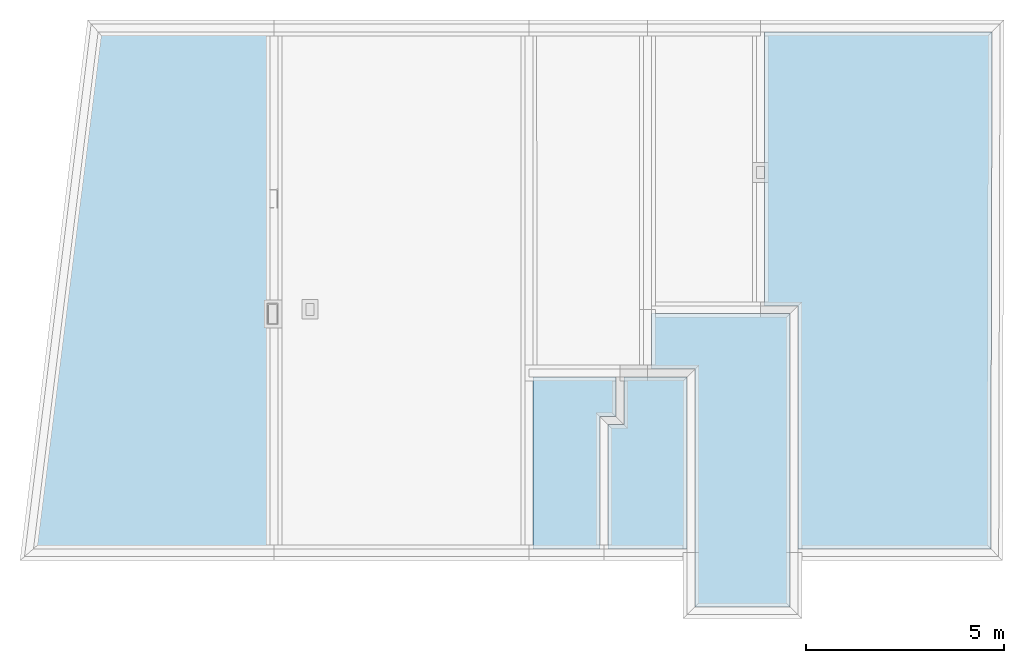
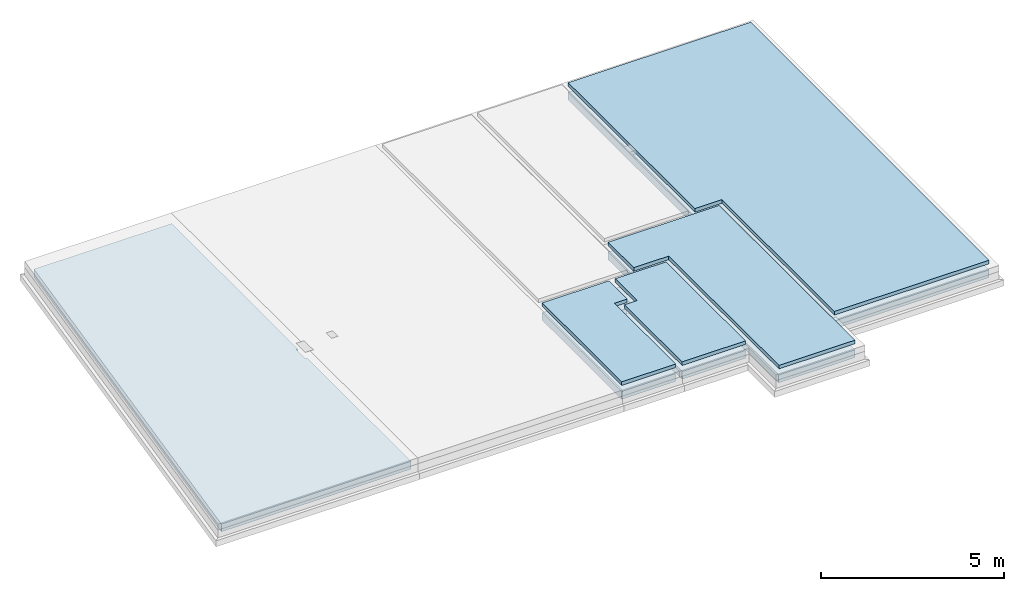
# One storey, part 6 of 6: 9 slabs.
"""IFC2X3 building model written with IfcOpenShell, lengths in metres."""

import ifcopenshell
import ifcopenshell.guid

model = None  # the IFC model being written
_history = None  # IfcOwnerHistory: only IFC2X3 demands one
_inside = {}  # id of a spatial element -> (the spatial element, [elements in it])
_under = {}  # id of a project, library or spatial element -> (it, [spatial elements below it])
_declared = {}  # id of a project -> (the project, [libraries it declares])
_typed = {}  # id of a type object -> (the type object, [elements of that type])
_made_of = {}  # id of a material, layer set ... -> (it, [elements and type objects made of it])


def new_model(schema):
    """Start an empty IFC model of exactly this schema.

    Asked for "IFC4X3", IfcOpenShell would pick the latest addendum, in which some entities
    have other attributes; the version numbers below select the first issue.
    IFC2X3 requires an IfcOwnerHistory on every rooted entity: one is made here for all.
    """
    global model, _history
    if schema == "IFC4X3":
        model = ifcopenshell.file(schema_version=(4, 3, 0, 0))
    else:
        model = ifcopenshell.file(schema=schema)
    _inside.clear()
    _under.clear()
    _declared.clear()
    _typed.clear()
    _made_of.clear()
    _history = None
    if model.schema == "IFC2X3":
        org = make("IfcOrganization", Name="unknown")
        user = make(
            "IfcPersonAndOrganization",
            ThePerson=make("IfcPerson", FamilyName="unknown"),
            TheOrganization=org,
        )
        app = make(
            "IfcApplication",
            ApplicationDeveloper=org,
            Version="unknown",
            ApplicationFullName="unknown",
            ApplicationIdentifier="unknown",
        )
        _history = make(
            "IfcOwnerHistory",
            OwningUser=user,
            OwningApplication=app,
            ChangeAction="ADDED",
            CreationDate=0,
        )
    return model


def make(cls, **values):
    """One entity of the class cls with the attributes given. An attribute that is None is left unset."""
    return model.create_entity(
        cls, **{name: value for name, value in values.items() if value is not None}
    )


def rooted(cls, **values):
    """An entity with a GlobalId (a new one), such as an element, a storey or a relation."""
    return make(cls, GlobalId=ifcopenshell.guid.new(), OwnerHistory=_history, **values)


def si_unit(unit_type, name, prefix=None):
    """IfcSIUnit, for example si_unit("LENGTHUNIT", "METRE", prefix="MILLI")."""
    return make("IfcSIUnit", UnitType=unit_type, Prefix=prefix, Name=name)


def assignment(units):
    """IfcUnitAssignment: the units of a project."""
    return None if units is None else make("IfcUnitAssignment", Units=units)


def point(xyz):
    """IfcCartesianPoint."""
    return None if xyz is None else make("IfcCartesianPoint", Coordinates=xyz)


def direction(xyz):
    """IfcDirection."""
    return None if xyz is None else make("IfcDirection", DirectionRatios=xyz)


def frame(location, z_axis=None, x_axis=None):
    """IfcAxis2Placement3D, a coordinate frame: its origin and axes. An axis left out is left unset."""
    return make(
        "IfcAxis2Placement3D",
        Location=point(location),
        Axis=direction(z_axis),
        RefDirection=direction(x_axis),
    )


def origin_with_axes():
    """The frame at (0, 0, 0) with the z axis (0, 0, 1) and the x axis (1, 0, 0) written out."""
    return frame((0.0, 0.0, 0.0), z_axis=(0.0, 0.0, 1.0), x_axis=(1.0, 0.0, 0.0))


def place(relative_to, where):
    """IfcLocalPlacement: puts the frame where relative to a parent placement (None: the world)."""
    return make(
        "IfcLocalPlacement", PlacementRelTo=relative_to, RelativePlacement=where
    )


def context(
    kind, dimensions, precision=None, world=None, true_north=None, identifier=None
):
    """IfcGeometricRepresentationContext, for example the 3D "Model" context."""
    return make(
        "IfcGeometricRepresentationContext",
        ContextIdentifier=identifier,
        ContextType=kind,
        CoordinateSpaceDimension=dimensions,
        Precision=precision,
        WorldCoordinateSystem=world,
        TrueNorth=true_north,
    )


def subcontext(parent, identifier, kind, view, scale=None):
    """IfcGeometricRepresentationSubContext, for example "Body" below "Model"."""
    return make(
        "IfcGeometricRepresentationSubContext",
        ContextIdentifier=identifier,
        ContextType=kind,
        ParentContext=parent,
        TargetScale=scale,
        TargetView=view,
    )


def project(units=None, contexts=None):
    """IfcProject with its units and contexts."""
    return rooted(
        "IfcProject",
        Name="project",
        RepresentationContexts=contexts,
        UnitsInContext=assignment(units),
    )


def spatial(cls, under=None, at=None, **own):
    """A site, building, storey or space (cls), placed at a placement, below another one or the project."""
    s = rooted(cls, ObjectPlacement=at, **own)
    if under is not None:
        _under.setdefault(under.id(), (under, []))[1].append(s)
    return s


def faces_of(points, faces, orient=None, outer=None):
    """IfcFace entities. A face is a list of loops; a loop is a list of indices into points, from 0.

    orient and outer hold one flag for each loop. By default every Orientation is true, the
    first loop of a face is its IfcFaceOuterBound and the others are IfcFaceBound.
    """
    made = []
    for i, loops in enumerate(faces):
        bounds = []
        for j, loop in enumerate(loops):
            is_outer = j == 0 if outer is None else outer[i][j]
            bounds.append(
                make(
                    "IfcFaceOuterBound" if is_outer else "IfcFaceBound",
                    Bound=make("IfcPolyLoop", Polygon=[points[k] for k in loop]),
                    Orientation=True if orient is None else orient[i][j],
                )
            )
        made.append(make("IfcFace", Bounds=bounds))
    return made


def faceted_brep(points, faces, orient=None, outer=None, voids=None):
    """IfcFacetedBrep: a solid bounded by flat faces; with voids (closed shells), ...WithVoids."""
    shared = [point(p) for p in points]
    hull = make("IfcClosedShell", CfsFaces=faces_of(shared, faces, orient, outer))
    if voids is None:
        return make("IfcFacetedBrep", Outer=hull)
    return make(
        "IfcFacetedBrepWithVoids",
        Outer=hull,
        Voids=[
            make(cls, CfsFaces=faces_of(shared, fs, o, b)) for cls, fs, o, b in voids
        ],
    )


def shape(context_of_items, identifier, shape_type, items):
    """IfcShapeRepresentation: the items that make up one representation, for example the "Body"."""
    return make(
        "IfcShapeRepresentation",
        ContextOfItems=context_of_items,
        RepresentationIdentifier=identifier,
        RepresentationType=shape_type,
        Items=items,
    )


def material(Name=None, Category=None):
    """IfcMaterial."""
    return make("IfcMaterial", Name=Name, Category=Category)


def made_of(thing, what):
    """Note that an element or type object is made of a material, layer set ...; save() writes the relation."""
    if what is not None:
        _made_of.setdefault(what.id(), (what, []))[1].append(thing)
    return thing


def element(
    cls,
    number,
    at=None,
    inside=None,
    cuts=None,
    type_object=None,
    material=None,
    context=None,
    identifier="Body",
    shape_type=None,
    held_by="IfcProductDefinitionShape",
    body=None,
    shapes=None,
    **own,
):
    """One element of the class cls, such as IfcWall. Its Tag is "e" and its number.

    at: its placement. inside: the storey or other place that contains it. cuts: it is an
    opening in that element (IfcRelVoidsElement). A single representation is given by context,
    identifier, shape_type and body (its items); several are given by shapes. held_by: the class
    of the entity that holds the representations. save() writes the other relations.
    """
    e = rooted(cls, Tag="e%d" % number, ObjectPlacement=at, **own)
    if body is not None:
        shapes = [shape(context, identifier, shape_type, body)]
    if shapes is not None:
        e.Representation = make(held_by, Representations=shapes)
    if inside is not None:
        _inside.setdefault(inside.id(), (inside, []))[1].append(e)
    if cuts is not None:
        rooted(
            "IfcRelVoidsElement", RelatingBuildingElement=cuts, RelatedOpeningElement=e
        )
    if type_object is not None:
        _typed.setdefault(type_object.id(), (type_object, []))[1].append(e)
    return made_of(e, material)


def aggregate(whole, parts):
    """IfcRelAggregates: a whole, such as a stair, and the parts it consists of."""
    return rooted("IfcRelAggregates", RelatingObject=whole, RelatedObjects=parts)


def save(model, path):
    """Write the relations noted so far, then the file.

    IfcRelAggregates (storeys below a building ...), IfcRelContainedInSpatialStructure (elements
    in a storey), IfcRelDefinesByType, IfcRelAssociatesMaterial and IfcRelDeclares: one each for
    every whole, place, type object, material and project.
    """
    for whole, parts in _under.values():
        aggregate(whole, parts)
    for where, things in _inside.values():
        rooted(
            "IfcRelContainedInSpatialStructure",
            RelatedElements=things,
            RelatingStructure=where,
        )
    for kind, things in _typed.values():
        rooted("IfcRelDefinesByType", RelatedObjects=things, RelatingType=kind)
    for what, things in _made_of.values():
        rooted("IfcRelAssociatesMaterial", RelatedObjects=things, RelatingMaterial=what)
    for by, libraries in _declared.values():
        rooted("IfcRelDeclares", RelatingContext=by, RelatedDefinitions=libraries)
    model.write(path)


model = new_model("IFC2X3")

# Units and contexts
model_context = context("Model", 3, precision=0.0001, world=origin_with_axes(), true_north=direction((0.0, 1.0)))
plan_context = context("Plan", 2, precision=0.0001, world=origin_with_axes(), true_north=direction((0.0, 1.0)))
body_context = subcontext(model_context, "Body", "Model", "MODEL_VIEW")
ifc_project = project(units=[si_unit("LENGTHUNIT", "METRE"), si_unit("AREAUNIT", "SQUARE_METRE"), si_unit("MASSUNIT", "GRAM", prefix="KILO"), si_unit("VOLUMEUNIT", "CUBIC_METRE")], contexts=[plan_context, model_context])

# Site, building, storey
site_placement = place(None, origin_with_axes())
site = spatial("IfcSite", under=ifc_project, at=site_placement, Name="$", CompositionType="ELEMENT")
building_placement = place(site_placement, origin_with_axes())
building = spatial("IfcBuilding", under=site, at=building_placement, Name="Classeur ENS Ensemble", CompositionType="ELEMENT")
storey_placement = place(building_placement, frame((-20.30778888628, -1.812671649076, 0.0), z_axis=(0.0, 0.0, 1.0), x_axis=(1.0, 0.0, 0.0)))
storey = spatial("IfcBuildingStorey", under=building, at=storey_placement, Name="000 Fondations", CompositionType="ELEMENT", Elevation=0.0)

# Slabs
ifc_material = material(Name="Default material")
slab_1_placement = place(storey_placement, frame((37.333296, -5.327328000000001, 0.0), z_axis=(0.0, 0.0, 1.0), x_axis=(1.0, 0.0, 0.0)))
element("IfcSlab", 1, at=slab_1_placement, inside=storey, material=ifc_material, Name="chape sur isolant 12 cm", PredefinedType="FLOOR", context=body_context, shape_type="Brep", held_by="IfcProductRepresentation", body=[
    faceted_brep([(5.755218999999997, 6.920000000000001, -0.119999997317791), (5.72152899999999, -6.14, -0.119999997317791), (0.8499999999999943, 0.0, -0.119999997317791), (5.72152899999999, -6.14, -0.119999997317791), (0.8499999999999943, -6.14, -0.119999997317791), (0.8499999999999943, 0.0, -0.119999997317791), (5.755218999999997, 6.920000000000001, 0.0), (5.72152899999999, -6.14, 0.0), (5.72152899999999, -6.14, -0.119999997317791), (5.755218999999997, 6.920000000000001, -0.119999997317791), (0.0, 6.920000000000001, 0.0), (0.0, 0.0, 0.0), (0.8499999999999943, 0.0, 0.0), (0.0, 6.920000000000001, 0.0), (5.755218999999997, 6.920000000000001, 0.0), (5.755218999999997, 6.920000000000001, -0.119999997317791), (0.0, 6.920000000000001, -0.119999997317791), (0.8499999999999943, 0.0, 0.0), (0.8499999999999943, -6.14, 0.0), (5.72152899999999, -6.14, 0.0), (0.0, 0.0, 0.0), (0.0, 6.920000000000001, 0.0), (0.0, 6.920000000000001, -0.119999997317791), (0.0, 0.0, -0.119999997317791), (0.8499999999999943, 0.0, -0.119999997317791), (0.0, 0.0, -0.119999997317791), (0.0, 6.920000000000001, -0.119999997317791), (5.755218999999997, 6.920000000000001, -0.119999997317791), (0.8499999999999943, 0.0, -0.119999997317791), (0.0, 6.920000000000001, -0.119999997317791), (0.0, 6.920000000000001, 0.0), (0.8499999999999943, 0.0, 0.0), (5.755218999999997, 6.920000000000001, 0.0), (0.8499999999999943, 0.0, 0.0), (0.0, 0.0, 0.0), (0.0, 0.0, -0.119999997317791), (0.8499999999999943, 0.0, -0.119999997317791), (5.72152899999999, -6.14, 0.0), (0.8499999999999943, -6.14, 0.0), (0.8499999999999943, -6.14, -0.119999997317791), (5.72152899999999, -6.14, -0.119999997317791), (0.8499999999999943, -6.14, 0.0), (0.8499999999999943, 0.0, 0.0), (0.8499999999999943, 0.0, -0.119999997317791), (0.8499999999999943, -6.14, -0.119999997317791), (0.8499999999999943, 0.0, 0.0), (5.72152899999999, -6.14, 0.0), (5.755218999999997, 6.920000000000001, 0.0)], [[[0, 1, 2]], [[3, 4, 5]], [[6, 7, 8, 9]], [[10, 11, 12]], [[13, 14, 15, 16]], [[17, 18, 19]], [[20, 21, 22, 23]], [[24, 25, 26]], [[27, 28, 29]], [[30, 31, 32]], [[33, 34, 35, 36]], [[37, 38, 39, 40]], [[41, 42, 43, 44]], [[45, 46, 47]]]),
])
slab_2_placement = place(storey_placement, frame((34.483296, -6.927328, 0.0), z_axis=(0.0, 0.0, 1.0), x_axis=(1.0, 0.0, 0.0)))
element("IfcSlab", 2, at=slab_2_placement, inside=storey, material=ifc_material, Name="chape sur isolant 12 cm", PredefinedType="FLOOR", context=body_context, shape_type="Brep", held_by="IfcProductRepresentation", body=[
    faceted_brep([(1.100000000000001, 0.0, -0.119999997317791), (7.399999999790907e-05, 1.399999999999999, -0.119999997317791), (3.5, 1.399999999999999, -0.119999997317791), (3.5, -6.005, -0.119999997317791), (1.100000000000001, 0.0, -0.119999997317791), (3.5, 1.399999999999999, -0.119999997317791), (7.399999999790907e-05, 1.399999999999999, 0.0), (0.0, 0.0, 0.0), (1.100000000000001, 0.0, 0.0), (1.109999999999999, -6.005, 0.0), (3.5, -6.005, 0.0), (1.100000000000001, 0.0, 0.0), (3.5, 1.399999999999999, 0.0), (1.100000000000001, 0.0, 0.0), (3.5, -6.005, 0.0), (1.100000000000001, 0.0, -0.119999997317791), (0.0, 0.0, -0.119999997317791), (7.399999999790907e-05, 1.399999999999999, -0.119999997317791), (1.100000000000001, 0.0, -0.119999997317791), (3.5, -6.005, -0.119999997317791), (1.109999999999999, -6.005, -0.119999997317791), (1.100000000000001, 0.0, 0.0), (0.0, 0.0, 0.0), (0.0, 0.0, -0.119999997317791), (1.100000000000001, 0.0, -0.119999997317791), (7.399999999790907e-05, 1.399999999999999, 0.0), (3.5, 1.399999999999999, 0.0), (3.5, 1.399999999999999, -0.119999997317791), (7.399999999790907e-05, 1.399999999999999, -0.119999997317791), (3.5, 1.399999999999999, 0.0), (3.5, -6.005, 0.0), (3.5, -6.005, -0.119999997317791), (3.5, 1.399999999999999, -0.119999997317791), (0.0, 0.0, 0.0), (7.399999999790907e-05, 1.399999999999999, 0.0), (7.399999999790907e-05, 1.399999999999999, -0.119999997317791), (0.0, 0.0, -0.119999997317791), (1.109999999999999, -6.005, 0.0), (1.100000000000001, 0.0, 0.0), (1.100000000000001, 0.0, -0.119999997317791), (1.109999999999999, -6.005, -0.119999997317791), (3.5, -6.005, 0.0), (1.109999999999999, -6.005, 0.0), (1.109999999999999, -6.005, -0.119999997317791), (3.5, -6.005, -0.119999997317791), (3.5, 1.399999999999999, 0.0), (7.399999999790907e-05, 1.399999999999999, 0.0), (1.100000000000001, 0.0, 0.0)], [[[0, 1, 2]], [[3, 4, 5]], [[6, 7, 8]], [[9, 10, 11]], [[12, 13, 14]], [[15, 16, 17]], [[18, 19, 20]], [[21, 22, 23, 24]], [[25, 26, 27, 28]], [[29, 30, 31, 32]], [[33, 34, 35, 36]], [[37, 38, 39, 40]], [[41, 42, 43, 44]], [[45, 46, 47]]]),
])
slab_3_placement = place(storey_placement, frame((31.483296, -11.467328, 0.0), z_axis=(0.0, 0.0, 1.0), x_axis=(1.0, 0.0, 0.0)))
element("IfcSlab", 3, at=slab_3_placement, inside=storey, material=ifc_material, Name="chape sur isolant 12 cm", PredefinedType="FLOOR", context=body_context, shape_type="Brep", held_by="IfcProductRepresentation", body=[
    faceted_brep([(1.699999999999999, 3.34, -0.119999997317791), (0.0, 4.34, -0.119999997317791), (2.100000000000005, 4.34, -0.119999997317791), (0.0, 4.34, 0.0), (0.0, 0.0, 0.0), (1.699999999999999, 3.34, 0.0), (1.699999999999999, 0.0, -0.119999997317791), (0.0, 0.0, -0.119999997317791), (1.699999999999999, 3.34, -0.119999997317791), (2.100000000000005, 4.34, 0.0), (1.699999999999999, 3.34, 0.0), (2.100000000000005, 3.34, 0.0), (1.699999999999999, 0.0, 0.0), (0.0, 0.0, 0.0), (0.0, 0.0, -0.119999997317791), (1.699999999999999, 0.0, -0.119999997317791), (0.0, 0.0, 0.0), (0.0, 4.34, 0.0), (0.0, 4.34, -0.119999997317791), (0.0, 0.0, -0.119999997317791), (2.100000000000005, 4.34, 0.0), (2.100000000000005, 3.34, 0.0), (2.100000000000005, 3.34, -0.119999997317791), (2.100000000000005, 4.34, -0.119999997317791), (2.100000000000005, 4.34, 0.0), (0.0, 4.34, 0.0), (1.699999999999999, 3.34, 0.0), (1.699999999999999, 3.34, 0.0), (0.0, 0.0, 0.0), (1.699999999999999, 0.0, 0.0), (2.100000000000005, 3.34, 0.0), (1.699999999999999, 3.34, 0.0), (1.699999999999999, 3.34, -0.119999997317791), (2.100000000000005, 3.34, -0.119999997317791), (2.100000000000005, 3.34, -0.119999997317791), (1.699999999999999, 3.34, -0.119999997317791), (2.100000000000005, 4.34, -0.119999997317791), (1.699999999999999, 3.34, -0.119999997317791), (0.0, 0.0, -0.119999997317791), (0.0, 4.34, -0.119999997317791), (0.0, 4.34, 0.0), (2.100000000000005, 4.34, 0.0), (2.100000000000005, 4.34, -0.119999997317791), (0.0, 4.34, -0.119999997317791), (1.699999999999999, 3.34, 0.0), (1.699999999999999, 0.0, 0.0), (1.699999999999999, 0.0, -0.119999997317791), (1.699999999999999, 3.34, -0.119999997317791)], [[[0, 1, 2]], [[3, 4, 5]], [[6, 7, 8]], [[9, 10, 11]], [[12, 13, 14, 15]], [[16, 17, 18, 19]], [[20, 21, 22, 23]], [[24, 25, 26]], [[27, 28, 29]], [[30, 31, 32, 33]], [[34, 35, 36]], [[37, 38, 39]], [[40, 41, 42, 43]], [[44, 45, 46, 47]]]),
])
slab_4_placement = place(storey_placement, frame((33.383296, -11.467328, 0.0), z_axis=(0.0, 0.0, 1.0), x_axis=(1.0, 0.0, 0.0)))
element("IfcSlab", 4, at=slab_4_placement, inside=storey, material=ifc_material, Name="chape sur isolant 12 cm", PredefinedType="FLOOR", context=body_context, shape_type="Brep", held_by="IfcProductRepresentation", body=[
    faceted_brep([(0.3999999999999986, 4.34, 0.0), (2.0, 4.34, 0.0), (2.0, 4.34, -0.119999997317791), (0.3999999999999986, 4.34, -0.119999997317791), (2.0, 0.0, -0.119999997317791), (0.0, 0.0, -0.119999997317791), (0.3999999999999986, 3.140000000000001, -0.119999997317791), (0.3999999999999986, 3.140000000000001, 0.0), (0.0, 0.0, 0.0), (2.0, 0.0, 0.0), (2.0, 4.34, 0.0), (0.3999999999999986, 3.140000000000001, 0.0), (2.0, 0.0, 0.0), (0.0, 0.0, 0.0), (0.0, 3.140000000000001, 0.0), (0.0, 3.140000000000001, -0.119999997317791), (0.0, 0.0, -0.119999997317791), (0.0, 3.140000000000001, 0.0), (0.3999999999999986, 3.140000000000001, 0.0), (0.3999999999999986, 3.140000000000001, -0.119999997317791), (0.0, 3.140000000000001, -0.119999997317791), (2.0, 0.0, 0.0), (0.0, 0.0, 0.0), (0.0, 0.0, -0.119999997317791), (2.0, 0.0, -0.119999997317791), (2.0, 0.0, -0.119999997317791), (0.3999999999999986, 3.140000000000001, -0.119999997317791), (2.0, 4.34, -0.119999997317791), (0.3999999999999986, 3.140000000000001, -0.119999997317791), (0.0, 0.0, -0.119999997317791), (0.0, 3.140000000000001, -0.119999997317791), (2.0, 4.34, 0.0), (0.3999999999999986, 4.34, 0.0), (0.3999999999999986, 3.140000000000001, 0.0), (0.3999999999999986, 3.140000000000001, -0.119999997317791), (0.3999999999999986, 4.34, -0.119999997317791), (2.0, 4.34, -0.119999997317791), (2.0, 4.34, 0.0), (2.0, 0.0, 0.0), (2.0, 0.0, -0.119999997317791), (2.0, 4.34, -0.119999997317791), (0.3999999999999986, 3.140000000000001, 0.0), (0.3999999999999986, 4.34, 0.0), (0.3999999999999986, 4.34, -0.119999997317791), (0.3999999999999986, 3.140000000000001, -0.119999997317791), (0.0, 3.140000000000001, 0.0), (0.0, 0.0, 0.0), (0.3999999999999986, 3.140000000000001, 0.0)], [[[0, 1, 2, 3]], [[4, 5, 6]], [[7, 8, 9]], [[10, 11, 12]], [[13, 14, 15, 16]], [[17, 18, 19, 20]], [[21, 22, 23, 24]], [[25, 26, 27]], [[28, 29, 30]], [[31, 32, 33]], [[34, 35, 36]], [[37, 38, 39, 40]], [[41, 42, 43, 44]], [[45, 46, 47]]]),
])
slab_5_placement = place(storey_placement, frame((18.867424, -11.467328, -0.32), z_axis=(0.0, 0.0, 1.0), x_axis=(1.0, 0.0, 0.0)))
element("IfcSlab", 5, at=slab_5_placement, inside=storey, material=ifc_material, Name="hérisson 26 cm", PredefinedType="FLOOR", context=body_context, shape_type="Brep", held_by="IfcProductRepresentation", body=[
    faceted_brep([(5.925871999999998, 6.18, -0.2599999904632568), (0.0, 0.0, -0.2599999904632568), (1.634547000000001, 13.06, -0.2599999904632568), (5.925871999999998, 5.68, -0.2599999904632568), (5.975871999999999, 0.0, -0.2599999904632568), (0.0, 0.0, -0.2599999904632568), (0.0, 0.0, 0.0), (5.975871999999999, 0.0, 0.0), (5.925871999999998, 5.68, 0.0), (5.975871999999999, 13.06, 0.0), (5.925871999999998, 6.18, 0.0), (5.975871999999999, 6.18, 0.0), (1.634547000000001, 13.06, 0.0), (0.0, 0.0, 0.0), (5.925871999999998, 6.18, 0.0), (5.925871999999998, 6.18, 0.0), (5.975871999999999, 13.06, 0.0), (1.634547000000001, 13.06, 0.0), (1.634547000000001, 13.06, 0.0), (5.975871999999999, 13.06, 0.0), (5.975871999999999, 13.06, -0.2599999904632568), (1.634547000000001, 13.06, -0.2599999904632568), (0.0, 0.0, 0.0), (1.634547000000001, 13.06, 0.0), (1.634547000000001, 13.06, -0.2599999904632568), (0.0, 0.0, -0.2599999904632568), (1.634547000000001, 13.06, -0.2599999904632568), (5.975871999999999, 13.06, -0.2599999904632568), (5.925871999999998, 6.18, -0.2599999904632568), (5.925871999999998, 6.18, 0.0), (0.0, 0.0, 0.0), (5.925871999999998, 5.68, 0.0), (5.925871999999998, 5.68, -0.2599999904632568), (0.0, 0.0, -0.2599999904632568), (5.925871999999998, 6.18, -0.2599999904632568), (5.975871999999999, 6.18, -0.2599999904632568), (5.925871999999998, 6.18, -0.2599999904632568), (5.975871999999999, 13.06, -0.2599999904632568), (5.975871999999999, 5.68, -0.2599999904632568), (5.975871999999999, 0.0, -0.2599999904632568), (5.925871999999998, 5.68, -0.2599999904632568), (5.925871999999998, 5.68, 0.0), (5.975871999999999, 0.0, 0.0), (5.975871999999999, 5.68, 0.0), (5.925871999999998, 6.18, 0.0), (5.925871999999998, 5.68, 0.0), (5.925871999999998, 5.68, -0.2599999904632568), (5.925871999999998, 6.18, -0.2599999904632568), (5.975871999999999, 13.06, 0.0), (5.975871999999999, 6.18, 0.0), (5.975871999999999, 6.18, -0.2599999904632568), (5.975871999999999, 13.06, -0.2599999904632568), (5.975871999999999, 6.18, 0.0), (5.925871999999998, 6.18, 0.0), (5.925871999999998, 6.18, -0.2599999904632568), (5.975871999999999, 6.18, -0.2599999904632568), (5.975871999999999, 5.68, 0.0), (5.975871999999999, 0.0, 0.0), (5.975871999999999, 0.0, -0.2599999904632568), (5.975871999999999, 5.68, -0.2599999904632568), (5.975871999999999, 0.0, 0.0), (0.0, 0.0, 0.0), (0.0, 0.0, -0.2599999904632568), (5.975871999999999, 0.0, -0.2599999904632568), (5.925871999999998, 5.68, 0.0), (5.975871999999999, 5.68, 0.0), (5.975871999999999, 5.68, -0.2599999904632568), (5.925871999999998, 5.68, -0.2599999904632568)], [[[0, 1, 2]], [[3, 4, 5]], [[6, 7, 8]], [[9, 10, 11]], [[12, 13, 14]], [[15, 16, 17]], [[18, 19, 20, 21]], [[22, 23, 24, 25]], [[26, 27, 28]], [[29, 30, 31]], [[32, 33, 34]], [[35, 36, 37]], [[38, 39, 40]], [[41, 42, 43]], [[44, 45, 46, 47]], [[48, 49, 50, 51]], [[52, 53, 54, 55]], [[56, 57, 58, 59]], [[60, 61, 62, 63]], [[64, 65, 66, 67]]]),
])
slab_6_placement = place(storey_placement, frame((37.333296, -5.327328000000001, -0.32), z_axis=(0.0, 0.0, 1.0), x_axis=(1.0, 0.0, 0.0)))
element("IfcSlab", 6, at=slab_6_placement, inside=storey, material=ifc_material, Name="hérisson 26 cm", PredefinedType="FLOOR", context=body_context, shape_type="Brep", held_by="IfcProductRepresentation", body=[
    faceted_brep([(0.8499999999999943, 0.0, -0.2599999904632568), (0.0, 0.0, -0.2599999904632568), (0.0, 6.920000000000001, -0.2599999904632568), (5.755224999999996, 6.920000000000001, -0.2599999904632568), (0.8499999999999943, 0.0, -0.2599999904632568), (0.0, 6.920000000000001, -0.2599999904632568), (0.0, 6.920000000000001, 0.0), (0.0, 0.0, 0.0), (0.8499999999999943, 0.0, 0.0), (0.0, 0.0, 0.0), (0.0, 6.920000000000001, 0.0), (0.0, 6.920000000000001, -0.2599999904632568), (0.0, 0.0, -0.2599999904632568), (5.72152899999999, -6.14, -0.2599999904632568), (0.8499999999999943, -6.14, -0.2599999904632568), (0.8499999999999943, 0.0, -0.2599999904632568), (0.8499999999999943, 0.0, 0.0), (5.72152899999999, -6.14, 0.0), (5.755224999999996, 6.920000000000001, 0.0), (5.755224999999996, 6.920000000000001, -0.2599999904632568), (5.72152899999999, -6.14, -0.2599999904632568), (0.8499999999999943, 0.0, -0.2599999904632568), (0.0, 6.920000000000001, 0.0), (0.8499999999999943, 0.0, 0.0), (5.755224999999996, 6.920000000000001, 0.0), (0.8499999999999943, 0.0, 0.0), (0.0, 0.0, 0.0), (0.0, 0.0, -0.2599999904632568), (0.8499999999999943, 0.0, -0.2599999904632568), (0.8499999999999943, 0.0, 0.0), (0.8499999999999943, -6.14, 0.0), (5.72152899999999, -6.14, 0.0), (5.755224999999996, 6.920000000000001, 0.0), (5.72152899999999, -6.14, 0.0), (5.72152899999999, -6.14, -0.2599999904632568), (5.755224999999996, 6.920000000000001, -0.2599999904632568), (5.72152899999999, -6.14, 0.0), (0.8499999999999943, -6.14, 0.0), (0.8499999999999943, -6.14, -0.2599999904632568), (5.72152899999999, -6.14, -0.2599999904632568), (0.0, 6.920000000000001, 0.0), (5.755224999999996, 6.920000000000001, 0.0), (5.755224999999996, 6.920000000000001, -0.2599999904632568), (0.0, 6.920000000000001, -0.2599999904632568), (0.8499999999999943, -6.14, 0.0), (0.8499999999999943, 0.0, 0.0), (0.8499999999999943, 0.0, -0.2599999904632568), (0.8499999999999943, -6.14, -0.2599999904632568)], [[[0, 1, 2]], [[3, 4, 5]], [[6, 7, 8]], [[9, 10, 11, 12]], [[13, 14, 15]], [[16, 17, 18]], [[19, 20, 21]], [[22, 23, 24]], [[25, 26, 27, 28]], [[29, 30, 31]], [[32, 33, 34, 35]], [[36, 37, 38, 39]], [[40, 41, 42, 43]], [[44, 45, 46, 47]]]),
])
slab_7_placement = place(storey_placement, frame((31.483296, -7.127328, -0.32), z_axis=(0.0, 0.0, 1.0), x_axis=(1.0, 0.0, 0.0)))
element("IfcSlab", 7, at=slab_7_placement, inside=storey, material=ifc_material, Name="hérisson 26 cm", PredefinedType="FLOOR", context=body_context, shape_type="Brep", held_by="IfcProductRepresentation", body=[
    faceted_brep([(0.0, 0.0, -0.2599999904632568), (2.100000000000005, 0.0, -0.2599999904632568), (1.699999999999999, -1.0, -0.2599999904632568), (1.699999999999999, -4.34, 0.0), (0.0, -4.34, 0.0), (0.0, -4.34, -0.2599999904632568), (1.699999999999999, -4.34, -0.2599999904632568), (1.699999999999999, -1.0, -0.2599999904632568), (0.0, -4.34, -0.2599999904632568), (0.0, 0.0, -0.2599999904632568), (1.699999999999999, -1.0, 0.0), (0.0, -4.34, 0.0), (1.699999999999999, -4.34, 0.0), (1.699999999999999, -4.34, -0.2599999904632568), (0.0, -4.34, -0.2599999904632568), (1.699999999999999, -1.0, -0.2599999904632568), (0.0, 0.0, 0.0), (0.0, -4.34, 0.0), (1.699999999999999, -1.0, 0.0), (1.699999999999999, -1.0, 0.0), (1.699999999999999, -4.34, 0.0), (1.699999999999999, -4.34, -0.2599999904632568), (1.699999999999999, -1.0, -0.2599999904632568), (0.0, -4.34, 0.0), (0.0, 0.0, 0.0), (0.0, 0.0, -0.2599999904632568), (0.0, -4.34, -0.2599999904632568), (2.100000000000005, -1.0, -0.2599999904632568), (1.699999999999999, -1.0, -0.2599999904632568), (2.100000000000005, 0.0, -0.2599999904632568), (1.699999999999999, -1.0, 0.0), (2.100000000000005, 0.0, 0.0), (0.0, 0.0, 0.0), (2.100000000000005, -1.0, 0.0), (1.699999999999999, -1.0, 0.0), (1.699999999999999, -1.0, -0.2599999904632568), (2.100000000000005, -1.0, -0.2599999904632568), (2.100000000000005, 0.0, 0.0), (2.100000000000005, -1.0, 0.0), (2.100000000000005, -1.0, -0.2599999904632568), (2.100000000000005, 0.0, -0.2599999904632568), (2.100000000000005, 0.0, 0.0), (1.699999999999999, -1.0, 0.0), (2.100000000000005, -1.0, 0.0), (0.0, 0.0, 0.0), (2.100000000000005, 0.0, 0.0), (2.100000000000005, 0.0, -0.2599999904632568), (0.0, 0.0, -0.2599999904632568)], [[[0, 1, 2]], [[3, 4, 5, 6]], [[7, 8, 9]], [[10, 11, 12]], [[13, 14, 15]], [[16, 17, 18]], [[19, 20, 21, 22]], [[23, 24, 25, 26]], [[27, 28, 29]], [[30, 31, 32]], [[33, 34, 35, 36]], [[37, 38, 39, 40]], [[41, 42, 43]], [[44, 45, 46, 47]]]),
])
slab_8_placement = place(storey_placement, frame((33.383296, -11.467328, -0.32), z_axis=(0.0, 0.0, 1.0), x_axis=(1.0, 0.0, 0.0)))
element("IfcSlab", 8, at=slab_8_placement, inside=storey, material=ifc_material, Name="hérisson 26 cm", PredefinedType="FLOOR", context=body_context, shape_type="Brep", held_by="IfcProductRepresentation", body=[
    faceted_brep([(2.0, 4.34, 0.0), (2.0, 0.0, 0.0), (2.0, 0.0, -0.2599999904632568), (2.0, 4.34, -0.2599999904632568), (2.0, 4.34, -0.2599999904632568), (0.3999999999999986, 3.140000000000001, -0.2599999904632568), (0.3999999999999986, 4.34, -0.2599999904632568), (0.3999999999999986, 3.140000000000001, -0.2599999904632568), (0.0, 0.0, -0.2599999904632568), (0.0, 3.140000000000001, -0.2599999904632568), (0.3999999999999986, 4.34, 0.0), (0.3999999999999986, 3.140000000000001, 0.0), (2.0, 4.34, 0.0), (0.0, 0.0, 0.0), (0.0, 3.140000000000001, 0.0), (0.0, 3.140000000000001, -0.2599999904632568), (0.0, 0.0, -0.2599999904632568), (0.3999999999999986, 4.34, 0.0), (2.0, 4.34, 0.0), (2.0, 4.34, -0.2599999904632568), (0.3999999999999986, 4.34, -0.2599999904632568), (2.0, 0.0, 0.0), (0.0, 0.0, 0.0), (0.0, 0.0, -0.2599999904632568), (2.0, 0.0, -0.2599999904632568), (0.3999999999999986, 3.140000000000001, 0.0), (2.0, 0.0, 0.0), (2.0, 4.34, 0.0), (2.0, 0.0, -0.2599999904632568), (0.0, 0.0, -0.2599999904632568), (0.3999999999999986, 3.140000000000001, -0.2599999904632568), (2.0, 4.34, -0.2599999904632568), (2.0, 0.0, -0.2599999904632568), (0.3999999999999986, 3.140000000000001, -0.2599999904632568), (0.3999999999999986, 3.140000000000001, 0.0), (0.0, 0.0, 0.0), (2.0, 0.0, 0.0), (0.0, 3.140000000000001, 0.0), (0.3999999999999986, 3.140000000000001, 0.0), (0.3999999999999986, 3.140000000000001, -0.2599999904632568), (0.0, 3.140000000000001, -0.2599999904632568), (0.3999999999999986, 3.140000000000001, 0.0), (0.3999999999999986, 4.34, 0.0), (0.3999999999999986, 4.34, -0.2599999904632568), (0.3999999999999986, 3.140000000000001, -0.2599999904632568), (0.0, 3.140000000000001, 0.0), (0.0, 0.0, 0.0), (0.3999999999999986, 3.140000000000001, 0.0)], [[[0, 1, 2, 3]], [[4, 5, 6]], [[7, 8, 9]], [[10, 11, 12]], [[13, 14, 15, 16]], [[17, 18, 19, 20]], [[21, 22, 23, 24]], [[25, 26, 27]], [[28, 29, 30]], [[31, 32, 33]], [[34, 35, 36]], [[37, 38, 39, 40]], [[41, 42, 43, 44]], [[45, 46, 47]]]),
])
slab_9_placement = place(storey_placement, frame((34.483296, -6.927328, -0.32), z_axis=(0.0, 0.0, 1.0), x_axis=(1.0, 0.0, 0.0)))
element("IfcSlab", 9, at=slab_9_placement, inside=storey, material=ifc_material, Name="hérisson 26 cm", PredefinedType="FLOOR", context=body_context, shape_type="Brep", held_by="IfcProductRepresentation", body=[
    faceted_brep([(3.5, -6.005, -0.2599999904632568), (1.100000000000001, 0.0, -0.2599999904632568), (3.5, 1.399999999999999, -0.2599999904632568), (3.5, -6.005, -0.2599999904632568), (1.100000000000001, -6.005, -0.2599999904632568), (1.100000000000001, 0.0, -0.2599999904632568), (3.5, 1.399999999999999, 0.0), (7.399999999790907e-05, 1.399999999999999, 0.0), (1.100000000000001, 0.0, 0.0), (7.399999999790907e-05, 1.399999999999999, 0.0), (0.0, 0.0, 0.0), (1.100000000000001, 0.0, 0.0), (1.100000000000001, 0.0, -0.2599999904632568), (7.399999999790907e-05, 1.399999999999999, -0.2599999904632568), (3.5, 1.399999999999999, -0.2599999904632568), (1.100000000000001, 0.0, -0.2599999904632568), (0.0, 0.0, -0.2599999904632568), (7.399999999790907e-05, 1.399999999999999, -0.2599999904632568), (1.100000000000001, 0.0, 0.0), (1.100000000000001, -6.005, 0.0), (3.5, -6.005, 0.0), (3.5, 1.399999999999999, 0.0), (1.100000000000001, 0.0, 0.0), (3.5, -6.005, 0.0), (1.100000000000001, -6.005, 0.0), (1.100000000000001, 0.0, 0.0), (1.100000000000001, 0.0, -0.2599999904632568), (1.100000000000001, -6.005, -0.2599999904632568), (0.0, 0.0, 0.0), (7.399999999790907e-05, 1.399999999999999, 0.0), (7.399999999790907e-05, 1.399999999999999, -0.2599999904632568), (0.0, 0.0, -0.2599999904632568), (3.5, 1.399999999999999, 0.0), (3.5, -6.005, 0.0), (3.5, -6.005, -0.2599999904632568), (3.5, 1.399999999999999, -0.2599999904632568), (7.399999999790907e-05, 1.399999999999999, 0.0), (3.5, 1.399999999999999, 0.0), (3.5, 1.399999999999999, -0.2599999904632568), (7.399999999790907e-05, 1.399999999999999, -0.2599999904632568), (1.100000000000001, 0.0, 0.0), (0.0, 0.0, 0.0), (0.0, 0.0, -0.2599999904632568), (1.100000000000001, 0.0, -0.2599999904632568), (3.5, -6.005, 0.0), (1.100000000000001, -6.005, 0.0), (1.100000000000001, -6.005, -0.2599999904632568), (3.5, -6.005, -0.2599999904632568)], [[[0, 1, 2]], [[3, 4, 5]], [[6, 7, 8]], [[9, 10, 11]], [[12, 13, 14]], [[15, 16, 17]], [[18, 19, 20]], [[21, 22, 23]], [[24, 25, 26, 27]], [[28, 29, 30, 31]], [[32, 33, 34, 35]], [[36, 37, 38, 39]], [[40, 41, 42, 43]], [[44, 45, 46, 47]]]),
])

save(model, "model.ifc")
